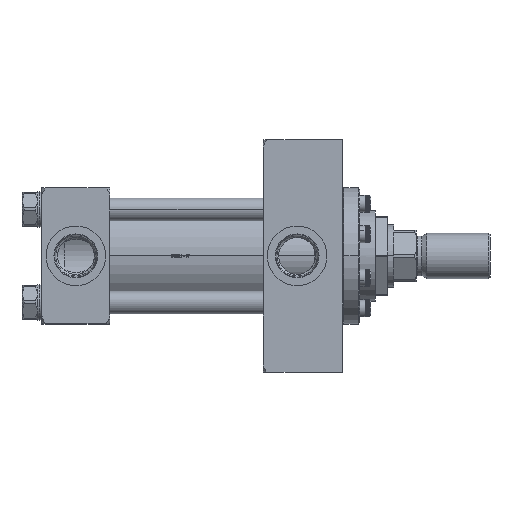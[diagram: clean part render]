
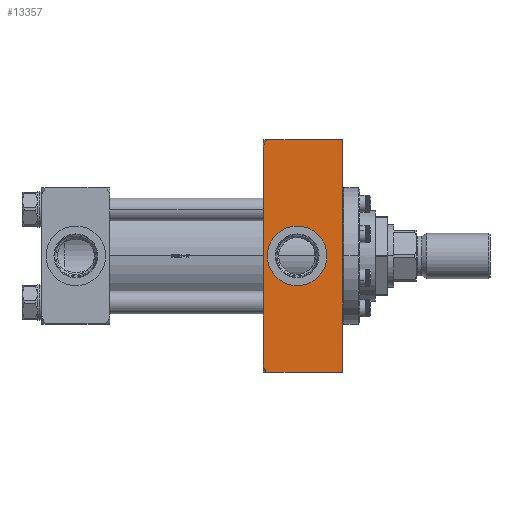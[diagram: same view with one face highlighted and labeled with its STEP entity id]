
A CAD part, top view. The second image highlights one B-rep face of the part: STEP entity #13357.
In plain terms, the highlighted planar face has unit normal (0, 0, 1).
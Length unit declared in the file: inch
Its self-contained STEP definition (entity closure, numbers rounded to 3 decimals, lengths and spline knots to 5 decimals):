
#3392 = CARTESIAN_POINT ( 'NONE',  ( -3.34096, -2.48492, 1.5 ) ) ;
#3851 = CARTESIAN_POINT ( 'NONE',  ( -2.625, 0.65625, 1.5 ) ) ;
#4596 = DIRECTION ( 'NONE',  ( 0., 0., -1. ) ) ;
#7427 = ORIENTED_EDGE ( 'NONE', *, *, #18975, .F. ) ;
#7518 = EDGE_CURVE ( 'NONE', #9846, #65303, #80004, .T. ) ;
#9362 = VERTEX_POINT ( 'NONE', #41339 ) ;
#9608 = CARTESIAN_POINT ( 'NONE',  ( -3.35616, -2.4517, 1.5 ) ) ;
#9846 = VERTEX_POINT ( 'NONE', #12740 ) ;
#10754 = CARTESIAN_POINT ( 'NONE',  ( -3.375, 2.3625, 1.5 ) ) ;
#11574 = AXIS2_PLACEMENT_3D ( 'NONE', #36694, #4596, #61852 ) ;
#12740 = CARTESIAN_POINT ( 'NONE',  ( -2.625, -0.65625, 1.5 ) ) ;
#13140 = DIRECTION ( 'NONE',  ( 1., 0., 0. ) ) ;
#13357 = ADVANCED_FACE ( 'NONE', ( #73739, #28010 ), #40759, .F. ) ;
#14539 = B_SPLINE_CURVE_WITH_KNOTS ( 'NONE', 3,
 ( #71007, #72247, #15364, #77272, #3392, #21942, #9608, #58239, #22334, #59885, #21129, #26932 ),
 .UNSPECIFIED., .F., .F.,
 ( 4, 2, 2, 2, 2, 4 ),
 ( 0.00627, 0.00766, 0.00905, 0.00975, 0.01044, 0.01184 ),
 .UNSPECIFIED. ) ;
#15153 = CARTESIAN_POINT ( 'NONE',  ( -3.375, 2.3625, 1.5 ) ) ;
#15364 = CARTESIAN_POINT ( 'NONE',  ( -3.31292, -2.53233, 1.5 ) ) ;
#17775 = CARTESIAN_POINT ( 'NONE',  ( -3.29216, 2.5625, 1.5 ) ) ;
#17866 = ORIENTED_EDGE ( 'NONE', *, *, #55949, .F. ) ;
#18379 = EDGE_CURVE ( 'NONE', #44093, #9362, #63669, .T. ) ;
#18975 = EDGE_CURVE ( 'NONE', #81467, #9362, #47278, .T. ) ;
#20935 = CARTESIAN_POINT ( 'NONE',  ( -3.36296, 2.43498, 1.5 ) ) ;
#21129 = CARTESIAN_POINT ( 'NONE',  ( -3.375, -2.38088, 1.5 ) ) ;
#21942 = CARTESIAN_POINT ( 'NONE',  ( -3.35257, -2.4601, 1.5 ) ) ;
#22334 = CARTESIAN_POINT ( 'NONE',  ( -3.36542, -2.42573, 1.5 ) ) ;
#22569 = DIRECTION ( 'NONE',  ( 0., 1., 0. ) ) ;
#23807 = CARTESIAN_POINT ( 'NONE',  ( -2.625, 0., 1.5 ) ) ;
#24721 = LINE ( 'NONE', #37451, #49867 ) ;
#26309 = CARTESIAN_POINT ( 'NONE',  ( -3.34065, 2.48554, 1.5 ) ) ;
#26730 = CARTESIAN_POINT ( 'NONE',  ( -3.31273, 2.53261, 1.5 ) ) ;
#26932 = CARTESIAN_POINT ( 'NONE',  ( -3.375, -2.3625, 1.5 ) ) ;
#27384 = AXIS2_PLACEMENT_3D ( 'NONE', #23807, #73277, #22569 ) ;
#27706 = VERTEX_POINT ( 'NONE', #45413 ) ;
#28010 = FACE_BOUND ( 'NONE', #45931, .T. ) ;
#29420 = EDGE_CURVE ( 'NONE', #71088, #35075, #74714, .T. ) ;
#30353 = ORIENTED_EDGE ( 'NONE', *, *, #18379, .T. ) ;
#30990 = DIRECTION ( 'NONE',  ( 0., 1., 0. ) ) ;
#32505 = CARTESIAN_POINT ( 'NONE',  ( -3.37232, 2.39953, 1.5 ) ) ;
#35075 = VERTEX_POINT ( 'NONE', #10754 ) ;
#35861 = ORIENTED_EDGE ( 'NONE', *, *, #69453, .T. ) ;
#36694 = CARTESIAN_POINT ( 'NONE',  ( -2.625, 0., 1.5 ) ) ;
#37451 = CARTESIAN_POINT ( 'NONE',  ( -3.375, -2.5625, 1.5 ) ) ;
#37650 = VECTOR ( 'NONE', #71069, 39.37008 ) ;
#39082 = CARTESIAN_POINT ( 'NONE',  ( -3.30263, 2.54769, 1.5 ) ) ;
#40759 = PLANE ( 'NONE',  #70090 ) ;
#41161 = CARTESIAN_POINT ( 'NONE',  ( -3.375, -2.5625, 1.5 ) ) ;
#41339 = CARTESIAN_POINT ( 'NONE',  ( -1.625, 2.5625, 1.5 ) ) ;
#41858 = EDGE_CURVE ( 'NONE', #27706, #44093, #24721, .T. ) ;
#42386 = DIRECTION ( 'NONE',  ( 0., 1., 0. ) ) ;
#44093 = VERTEX_POINT ( 'NONE', #67736 ) ;
#45413 = CARTESIAN_POINT ( 'NONE',  ( -3.29216, -2.5625, 1.5 ) ) ;
#45699 = CARTESIAN_POINT ( 'NONE',  ( -3.375, 2.38099, 1.5 ) ) ;
#45931 = EDGE_LOOP ( 'NONE', ( #35861, #48706 ) ) ;
#46771 = CARTESIAN_POINT ( 'NONE',  ( -1.625, -2.5625, 1.5 ) ) ;
#47278 = LINE ( 'NONE', #50740, #78406 ) ;
#48706 = ORIENTED_EDGE ( 'NONE', *, *, #7518, .T. ) ;
#49867 = VECTOR ( 'NONE', #74195, 39.37008 ) ;
#50740 = CARTESIAN_POINT ( 'NONE',  ( -3.375, 2.5625, 1.5 ) ) ;
#51864 = CARTESIAN_POINT ( 'NONE',  ( -3.33173, 2.50154, 1.5 ) ) ;
#55949 = EDGE_CURVE ( 'NONE', #27706, #71088, #14539, .T. ) ;
#58239 = CARTESIAN_POINT ( 'NONE',  ( -3.36257, -2.43453, 1.5 ) ) ;
#58332 = EDGE_LOOP ( 'NONE', ( #17866, #65310, #30353, #7427, #76143, #63986 ) ) ;
#58870 = CARTESIAN_POINT ( 'NONE',  ( -3.35635, 2.4521, 1.5 ) ) ;
#59885 = CARTESIAN_POINT ( 'NONE',  ( -3.37243, -2.39896, 1.5 ) ) ;
#60562 = DIRECTION ( 'NONE',  ( 0., 0., -1. ) ) ;
#61852 = DIRECTION ( 'NONE',  ( 0., 1., 0. ) ) ;
#63094 = CARTESIAN_POINT ( 'NONE',  ( -3.375, -2.5625, 1.5 ) ) ;
#63669 = LINE ( 'NONE', #46771, #37650 ) ;
#63986 = ORIENTED_EDGE ( 'NONE', *, *, #29420, .F. ) ;
#64177 = CIRCLE ( 'NONE', #27384, 0.65625 ) ;
#65303 = VERTEX_POINT ( 'NONE', #3851 ) ;
#65310 = ORIENTED_EDGE ( 'NONE', *, *, #41858, .T. ) ;
#67736 = CARTESIAN_POINT ( 'NONE',  ( -1.625, -2.5625, 1.5 ) ) ;
#69447 = VECTOR ( 'NONE', #30990, 39.37008 ) ;
#69453 = EDGE_CURVE ( 'NONE', #65303, #9846, #64177, .T. ) ;
#70090 = AXIS2_PLACEMENT_3D ( 'NONE', #41161, #60562, #42386 ) ;
#70816 = CARTESIAN_POINT ( 'NONE',  ( -3.29216, 2.5625, 1.5 ) ) ;
#71000 = CARTESIAN_POINT ( 'NONE',  ( -3.375, -2.3625, 1.5 ) ) ;
#71007 = CARTESIAN_POINT ( 'NONE',  ( -3.29216, -2.5625, 1.5 ) ) ;
#71069 = DIRECTION ( 'NONE',  ( 0., 1., 0. ) ) ;
#71088 = VERTEX_POINT ( 'NONE', #71000 ) ;
#71171 = B_SPLINE_CURVE_WITH_KNOTS ( 'NONE', 3,
 ( #15153, #45699, #32505, #20935, #58870, #26309, #51864, #26730, #39082, #70816 ),
 .UNSPECIFIED., .F., .F.,
 ( 4, 2, 2, 2, 4 ),
 ( 0.00308, 0.00446, 0.00584, 0.00722, 0.0086 ),
 .UNSPECIFIED. ) ;
#72247 = CARTESIAN_POINT ( 'NONE',  ( -3.30272, -2.54756, 1.5 ) ) ;
#73277 = DIRECTION ( 'NONE',  ( 0., 0., -1. ) ) ;
#73739 = FACE_OUTER_BOUND ( 'NONE', #58332, .T. ) ;
#74195 = DIRECTION ( 'NONE',  ( 1., 0., 0. ) ) ;
#74714 = LINE ( 'NONE', #63094, #69447 ) ;
#76143 = ORIENTED_EDGE ( 'NONE', *, *, #79055, .F. ) ;
#77272 = CARTESIAN_POINT ( 'NONE',  ( -3.33208, -2.50094, 1.5 ) ) ;
#78406 = VECTOR ( 'NONE', #13140, 39.37008 ) ;
#79055 = EDGE_CURVE ( 'NONE', #35075, #81467, #71171, .T. ) ;
#80004 = CIRCLE ( 'NONE', #11574, 0.65625 ) ;
#81467 = VERTEX_POINT ( 'NONE', #17775 ) ;
